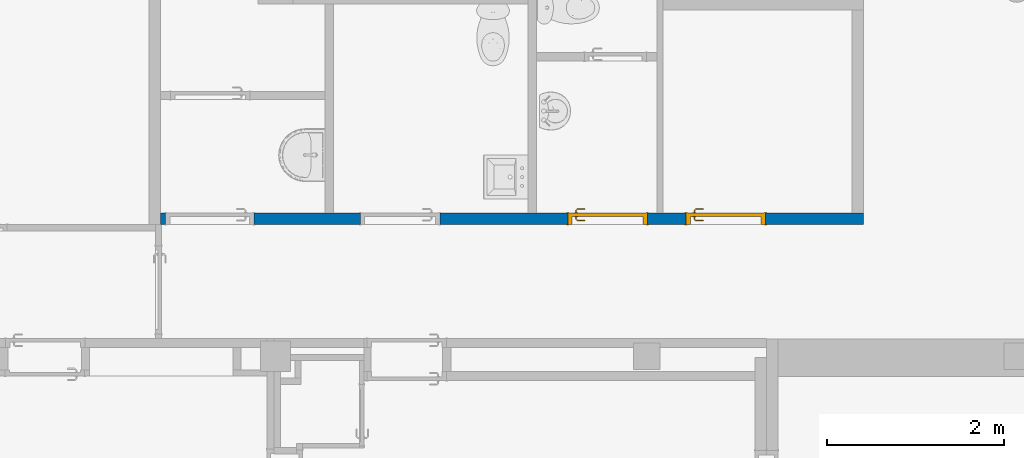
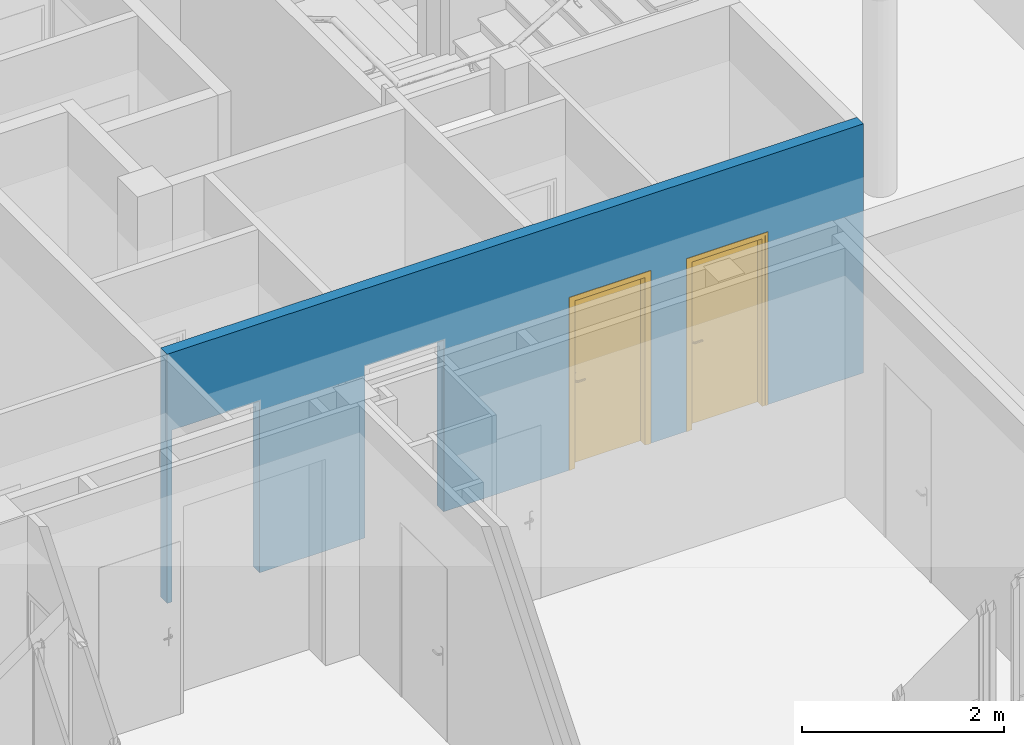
# One storey, part 63 of 97: 2 doors, 1 wall, 4 openings.
"""IFC4 building model written with IfcOpenShell, lengths in metres."""

from ifc_helpers import new_model, entity, si_unit, converted_unit, derived_unit, direction, frame, origin, place, context, subcontext, project, spatial, indexed_curve, outline, extrude, polygons, source, transform, mapped, material, material_list, layer, layer_set, constituent, constituent_set, type_object, type_shapes, element, fill, save


model = new_model("IFC4")

# Units and contexts
model_context = context("Model", 3, precision=1e-05, world=origin(), true_north=direction((6.12303176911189e-17, 1.0)))
body_context = subcontext(model_context, "Body", "Model", "MODEL_VIEW")
ifc_project = project(units=[si_unit("LENGTHUNIT", "METRE"), si_unit("AREAUNIT", "SQUARE_METRE"), si_unit("VOLUMEUNIT", "CUBIC_METRE"), converted_unit("PLANEANGLEUNIT", "DEGREE", entity("IfcRatioMeasure", 0.0174532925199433), si_unit("PLANEANGLEUNIT", "RADIAN"), dimensions=[0, 0, 0, 0, 0, 0, 0]), si_unit("MASSUNIT", "GRAM", prefix="KILO"), derived_unit("MASSDENSITYUNIT", [(si_unit("MASSUNIT", "GRAM", prefix="KILO"), 1), (si_unit("LENGTHUNIT", "METRE"), -3)]), derived_unit("MOMENTOFINERTIAUNIT", [(si_unit("LENGTHUNIT", "METRE"), 4)]), si_unit("TIMEUNIT", "SECOND"), si_unit("FREQUENCYUNIT", "HERTZ"), si_unit("THERMODYNAMICTEMPERATUREUNIT", "DEGREE_CELSIUS"), derived_unit("THERMALTRANSMITTANCEUNIT", [(si_unit("MASSUNIT", "GRAM", prefix="KILO"), 1), (si_unit("THERMODYNAMICTEMPERATUREUNIT", "KELVIN"), -1), (si_unit("TIMEUNIT", "SECOND"), -3)]), derived_unit("VOLUMETRICFLOWRATEUNIT", [(si_unit("LENGTHUNIT", "METRE"), 3), (si_unit("TIMEUNIT", "SECOND"), -1)]), si_unit("ELECTRICCURRENTUNIT", "AMPERE"), si_unit("ELECTRICVOLTAGEUNIT", "VOLT"), si_unit("POWERUNIT", "WATT"), si_unit("FORCEUNIT", "NEWTON", prefix="KILO"), si_unit("ILLUMINANCEUNIT", "LUX"), si_unit("LUMINOUSFLUXUNIT", "LUMEN"), si_unit("LUMINOUSINTENSITYUNIT", "CANDELA"), derived_unit("USERDEFINED", [(si_unit("MASSUNIT", "GRAM", prefix="KILO"), -1), (si_unit("LENGTHUNIT", "METRE"), -2), (si_unit("TIMEUNIT", "SECOND"), 3), (si_unit("LUMINOUSFLUXUNIT", "LUMEN"), 1)]), derived_unit("LINEARVELOCITYUNIT", [(si_unit("LENGTHUNIT", "METRE"), 1), (si_unit("TIMEUNIT", "SECOND"), -1)]), si_unit("PRESSUREUNIT", "PASCAL"), derived_unit("USERDEFINED", [(si_unit("LENGTHUNIT", "METRE"), -2), (si_unit("MASSUNIT", "GRAM", prefix="KILO"), 1), (si_unit("TIMEUNIT", "SECOND"), -2)]), derived_unit("LINEARFORCEUNIT", [(si_unit("MASSUNIT", "GRAM", prefix="KILO"), 1), (si_unit("LENGTHUNIT", "METRE"), 1), (si_unit("TIMEUNIT", "SECOND"), -2), (si_unit("LENGTHUNIT", "METRE"), -1)]), derived_unit("PLANARFORCEUNIT", [(si_unit("MASSUNIT", "GRAM", prefix="KILO"), 1), (si_unit("LENGTHUNIT", "METRE"), 1), (si_unit("TIMEUNIT", "SECOND"), -2), (si_unit("LENGTHUNIT", "METRE"), -2)])], contexts=[model_context])

# Site, building, storey
site_placement = place(None, origin())
site = spatial("IfcSite", under=ifc_project, at=site_placement, Name="Default", CompositionType="ELEMENT")
building_placement = place(site_placement, origin())
building = spatial("IfcBuilding", under=site, at=building_placement, Name="HOTEL CONSULAIRE BOULOGNE SUR MER", CompositionType="ELEMENT")
storey_placement = place(building_placement, frame((0.0, 0.0, 3.62152697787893)))
storey = spatial("IfcBuildingStorey", under=building, at=storey_placement, Name="Niveau 1", CompositionType="ELEMENT", Elevation=3.62152697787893)

# Wall, openings, doors
ifc_material_1 = material(Name="Mur par défaut", Category="Divers")
ifc_layer = layer(ifc_material_1, 0.13, Name="Mur par défaut", Category="Divers")
ifc_layer_set = layer_set([ifc_layer], Name="Mur de base:Générique - Int. 130 mm")
wall_type = type_object("IfcWallType", Name="Mur de base:Générique - Int. 130 mm", PredefinedType="NOTDEFINED", material=ifc_layer_set)
wall_placement = place(storey_placement, frame((5.42705530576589, -22.4600276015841, 0.0), z_axis=(0.0, 0.0, 1.0), x_axis=(-1.0, 0.0, 0.0)))
wall = element("IfcWall", 1, at=wall_placement, inside=storey, type_object=wall_type, material=ifc_layer_set, Name="Mur de base:Générique - Int. 130 mm", ObjectType="Mur de base:Générique - Int. 130 mm", PredefinedType="NOTDEFINED", context=body_context, shape_type="Tessellation", body=[
    polygons([(7.95758399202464, -0.0650000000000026, 0.0), (7.90058399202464, -0.0649999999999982, 0.0), (7.90058399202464, 0.0649999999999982, 0.0), (7.94618813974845, 0.0649999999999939, 0.0), (7.95758399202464, 0.0649999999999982, 0.0), (6.90058399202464, -0.0650000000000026, 0.0), (6.09803531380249, -0.0650000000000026, 0.0), (5.99803531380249, -0.0650000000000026, 0.0), (5.69603531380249, -0.0650000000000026, 0.0), (5.69603531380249, 0.0649999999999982, 0.0), (6.90058399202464, 0.0649999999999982, 0.0), (4.79603531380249, -0.0650000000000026, 0.0), (3.79958399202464, -0.0650000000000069, 0.0), (3.69958399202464, -0.0650000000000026, 0.0), (3.34724170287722, -0.0649999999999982, 0.0), (3.34724170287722, 0.0649999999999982, 0.0), (4.79603531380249, 0.0650000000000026, 0.0), (2.44724170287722, -0.0650000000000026, 0.0), (2.33924170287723, -0.0650000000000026, 0.0), (2.26924170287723, -0.0650000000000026, 0.0), (2.00824170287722, -0.0649999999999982, 0.0), (2.00824170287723, 0.0649999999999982, 0.0), (2.44724170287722, 0.0649999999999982, 0.0), (7.95758399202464, -0.0649999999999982, 3.01021454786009), (6.09803531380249, -0.0650000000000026, 3.01021454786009), (5.99803531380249, -0.0650000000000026, 3.01021454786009), (3.79958399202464, -0.0650000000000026, 3.01021454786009), (3.69958399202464, -0.0649999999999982, 3.01021454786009), (2.33924170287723, -0.0650000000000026, 3.01021454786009), (2.26924170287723, -0.0649999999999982, 3.01021454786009), (0.130000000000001, -0.0650000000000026, 3.01021454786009), (-2.38412309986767e-16, -0.0650000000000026, 3.01021454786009), (-2.38412309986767e-16, -0.0650000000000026, 0.0), (0.129999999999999, -0.0650000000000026, 0.0), (1.10824170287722, -0.0650000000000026, 0.0), (1.10824170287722, -0.0650000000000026, 2.075), (2.00824170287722, -0.0649999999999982, 2.075), (2.44724170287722, -0.0650000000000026, 2.075), (3.34724170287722, -0.0649999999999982, 2.075), (4.79603531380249, -0.0649999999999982, 2.075), (5.69603531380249, -0.0650000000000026, 2.075), (6.90058399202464, -0.0650000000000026, 2.075), (7.90058399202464, -0.0649999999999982, 2.075), (-6.35807461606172e-16, 0.0649999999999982, 3.01021454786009), (7.94618813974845, 0.0650000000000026, 3.01021454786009), (7.95758399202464, 0.0650000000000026, 3.01021454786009), (7.90058399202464, 0.0650000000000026, 2.075), (6.90058399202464, 0.0649999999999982, 2.075), (5.69603531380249, 0.0649999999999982, 2.075), (4.79603531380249, 0.0650000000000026, 2.075), (3.34724170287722, 0.0650000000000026, 2.075), (2.44724170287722, 0.0649999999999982, 2.075), (2.00824170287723, 0.0650000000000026, 2.075), (1.10824170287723, 0.0649999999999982, 2.075), (1.10824170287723, 0.0649999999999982, 0.0), (-6.35807461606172e-16, 0.0649999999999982, 0.0)], [[[1, 2, 3, 4, 5]], [[7, 8, 9, 10, 11, 6]], [[13, 14, 15, 16, 17, 12]], [[20, 21, 22, 23, 18, 19]], [[39, 38, 52, 51]], [[37, 36, 54, 53]], [[50, 49, 41, 40]], [[48, 47, 43, 42]], [[34, 33, 56, 55, 35]], [[34, 35, 36, 37, 21, 20, 19, 18, 38, 39, 15, 14, 13, 12, 40, 41, 9, 8, 7, 6, 42, 43, 2, 1, 24, 25, 26, 27, 28, 29, 30, 31, 32, 33]], [[47, 48, 11, 10, 49, 50, 17, 16, 51, 52, 23, 22, 53, 54, 55, 56, 44, 45, 46, 5, 4, 3]], [[25, 24, 46, 45, 44, 32, 31, 30, 29, 28, 27, 26]], [[44, 56, 33, 32]], [[15, 39, 51, 16]], [[21, 37, 53, 22]], [[49, 10, 9, 41]], [[47, 3, 2, 43]], [[1, 5, 46, 24]], [[38, 18, 23, 52]], [[36, 35, 55, 54]], [[17, 50, 40, 12]], [[11, 48, 42, 6]]], closed=True),
])
opening_1_placement = place(wall_placement, frame((3.34724170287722, 0.0649999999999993, 0.0)))
opening_1 = element("IfcOpeningElement", 2, at=opening_1_placement, cuts=wall, Name="Int. Simple:PP (0.83m x 2.04m):1", ObjectType="Opening", PredefinedType="OPENING", context=body_context, shape_type="SweptSolid", body=[
    extrude(outline(indexed_curve([(0.0, 0.9), (0.0, 0.0), (2.075, 0.0), (2.075, 0.9), (0.0, 0.9)], self_intersect=False)), frame((0.0, 0.0, 0.0), z_axis=(0.0, -1.0, 0.0), x_axis=(0.0, 0.0, 1.0)), (0.0, 0.0, 1.0), 0.13),
])
opening_2_placement = place(wall_placement, frame((2.00824170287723, 0.0649999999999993, 0.0)))
opening_2 = element("IfcOpeningElement", 3, at=opening_2_placement, cuts=wall, Name="Int. Simple:PP (0.83m x 2.04m):1", ObjectType="Opening", PredefinedType="OPENING", context=body_context, shape_type="SweptSolid", body=[
    extrude(outline(indexed_curve([(0.0, 0.9), (0.0, 0.0), (2.075, 0.0), (2.075, 0.9), (0.0, 0.9)], self_intersect=False)), frame((0.0, 0.0, 0.0), z_axis=(0.0, -1.0, 0.0), x_axis=(0.0, 0.0, 1.0)), (0.0, 0.0, 1.0), 0.13),
])
opening_3_placement = place(wall_placement, frame((5.69603531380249, 0.0650000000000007, 0.0)))
element("IfcOpeningElement", 4, at=opening_3_placement, cuts=wall, Name="Int. Simple:PP (0.83m x 2.04m):1", ObjectType="Opening", PredefinedType="OPENING", context=body_context, shape_type="SweptSolid", body=[
    extrude(outline(indexed_curve([(0.0, 0.0), (2.075, 0.0), (2.075, 0.9), (0.0, 0.9), (0.0, 0.0)], self_intersect=False)), frame((0.0, 0.0, 0.0), z_axis=(0.0, -1.0, 0.0), x_axis=(0.0, 0.0, 1.0)), (0.0, 0.0, 1.0), 0.13),
])
opening_4_placement = place(wall_placement, frame((7.90058399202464, 0.0650000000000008, 0.0)))
element("IfcOpeningElement", 5, at=opening_4_placement, cuts=wall, Name="Int. Simple:PP0.93x2.04:1", ObjectType="Opening", PredefinedType="OPENING", context=body_context, shape_type="SweptSolid", body=[
    extrude(outline(indexed_curve([(0.0, 0.0), (2.075, 0.0), (2.075, 1.0), (0.0, 1.0), (0.0, 0.0)], self_intersect=False)), frame((0.0, 0.0, 0.0), z_axis=(0.0, -1.0, 0.0), x_axis=(0.0, 0.0, 1.0)), (0.0, 0.0, 1.0), 0.13),
])
ifc_material_2 = material(Name="Finition Peinture - Blanc satiné", Category="Peinture")
ifc_constituent_1 = constituent(ifc_material_2, Name="Finition Peinture - Blanc satiné", Category="Matériaux")
ifc_material_3 = material(Name="Bois - Panneau de porte", Category="Bois")
ifc_constituent_2 = constituent(ifc_material_3, Name="Bois - Panneau de porte", Category="Matériaux")
ifc_material_4 = material(Name="Bois - Cadre de porte", Category="Bois")
ifc_constituent_3 = constituent(ifc_material_4, Name="Bois - Cadre de porte", Category="Matériaux")
ifc_constituent_set_1 = constituent_set(constituents=[ifc_constituent_1, ifc_constituent_2, ifc_constituent_3], Name="MaterialConstituentSet")
ifc_material_list = material_list([ifc_material_3, ifc_material_2, ifc_material_4, ifc_material_4])
door_type = type_object("IfcDoorType", Name="Int. Simple:PP (0.83m x 2.04m)", OperationType="NOTDEFINED", PredefinedType="DOOR", material=ifc_material_list)
shared_shape = source(origin(), body_context, "Body", "Tessellation", [
    polygons([(0.895000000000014, -0.00500000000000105, 0.870000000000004), (0.895000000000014, -0.00500000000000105, 1.08), (0.885352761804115, -0.00500000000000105, 1.08399601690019), (0.875000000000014, -0.00500000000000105, 1.08535898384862), (0.864647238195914, -0.00500000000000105, 1.08399601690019), (0.855000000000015, -0.00500000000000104, 1.08), (0.855000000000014, -0.00500000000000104, 0.870000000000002), (0.864647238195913, -0.00500000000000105, 0.866003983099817), (0.875000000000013, -0.00500000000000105, 0.86464101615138), (0.885352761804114, -0.00500000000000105, 0.866003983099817), (0.895000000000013, -1.05748743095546e-15, 0.870000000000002), (0.885352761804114, -1.05748743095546e-15, 0.866003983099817), (0.875000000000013, -1.04902753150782e-15, 0.86464101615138), (0.864647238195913, -1.04902753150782e-15, 0.866003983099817), (0.855000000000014, -1.04056763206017e-15, 0.870000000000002), (0.855000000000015, -1.04056763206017e-15, 1.08), (0.864647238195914, -1.04902753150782e-15, 1.08399601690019), (0.875000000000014, -1.04902753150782e-15, 1.08535898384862), (0.885352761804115, -1.05748743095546e-15, 1.08399601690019), (0.895000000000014, -1.05748743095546e-15, 1.08)], [[[1, 2, 3, 4, 5, 6, 7, 8, 9, 10]], [[20, 11, 12, 13, 14, 15, 16, 17, 18, 19]], [[10, 12, 11, 1]], [[9, 13, 12, 10]], [[8, 14, 13, 9]], [[8, 7, 15, 14]], [[15, 7, 6, 16]], [[5, 17, 16, 6]], [[4, 18, 17, 5]], [[3, 19, 18, 4]], [[3, 2, 20, 19]], [[11, 20, 2, 1]]], closed=True),
    polygons([(0.855000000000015, 0.0399999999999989, 1.08), (0.855000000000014, 0.0399999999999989, 0.870000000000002), (0.864647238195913, 0.0399999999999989, 0.866003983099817), (0.875000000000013, 0.0399999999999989, 0.86464101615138), (0.885352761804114, 0.0399999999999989, 0.866003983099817), (0.895000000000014, 0.0399999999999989, 0.870000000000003), (0.895000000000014, 0.0399999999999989, 1.08), (0.885352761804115, 0.0399999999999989, 1.08399601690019), (0.875000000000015, 0.0399999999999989, 1.08535898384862), (0.864647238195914, 0.0399999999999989, 1.08399601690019), (0.855000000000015, 0.0449999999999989, 1.08), (0.864647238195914, 0.0449999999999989, 1.08399601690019), (0.875000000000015, 0.0449999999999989, 1.08535898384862), (0.885352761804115, 0.0449999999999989, 1.08399601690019), (0.895000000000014, 0.0449999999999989, 1.08), (0.895000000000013, 0.0449999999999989, 0.870000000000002), (0.885352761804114, 0.0449999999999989, 0.866003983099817), (0.875000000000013, 0.0449999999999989, 0.86464101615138), (0.864647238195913, 0.0449999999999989, 0.866003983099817), (0.855000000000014, 0.0449999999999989, 0.870000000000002)], [[[6, 7, 8, 9, 10, 1, 2, 3, 4, 5]], [[13, 14, 15, 16, 17, 18, 19, 20, 11, 12]], [[10, 12, 11, 1]], [[9, 13, 12, 10]], [[8, 14, 13, 9]], [[8, 7, 15, 14]], [[16, 15, 7, 6]], [[5, 17, 16, 6]], [[4, 18, 17, 5]], [[3, 19, 18, 4]], [[3, 2, 20, 19]], [[20, 2, 1, 11]]], closed=True),
    polygons([(0.881000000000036, -0.00500000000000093, 1.00699999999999), (0.881000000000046, -0.00500000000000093, 0.992999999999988), (0.877025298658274, -0.00500000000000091, 0.99221955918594), (0.872974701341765, -0.00500000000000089, 0.992219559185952), (0.868999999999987, -0.00500000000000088, 0.993000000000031), (0.868999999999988, -0.00500000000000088, 1.007), (0.872974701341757, -0.00500000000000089, 1.00778044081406), (0.877025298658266, -0.00500000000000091, 1.00778044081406), (0.868999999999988, -0.0276803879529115, 1.007), (0.872974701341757, -0.0293267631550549, 1.00778044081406), (0.877025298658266, -0.0310045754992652, 1.00778044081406), (0.881000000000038, -0.0326509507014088, 1.007), (0.868999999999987, -0.0276803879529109, 0.993000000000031), (0.881000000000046, -0.0326509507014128, 0.992999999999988), (0.877025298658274, -0.0310045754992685, 0.99221955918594), (0.872974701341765, -0.0293267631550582, 0.992219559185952), (0.85765222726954, -0.0390281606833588, 1.007), (0.859298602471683, -0.0430028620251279, 1.00778044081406), (0.860976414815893, -0.0470534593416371, 1.00778044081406), (0.862622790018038, -0.0510281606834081, 1.007), (0.857652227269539, -0.0390281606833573, 0.993000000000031), (0.862622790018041, -0.0510281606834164, 0.992999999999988), (0.860976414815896, -0.0470534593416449, 0.99221955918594), (0.859298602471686, -0.0430028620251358, 0.992219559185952), (0.774981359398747, -0.0510281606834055, 1.007), (0.774981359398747, -0.0470534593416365, 1.00778044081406), (0.774981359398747, -0.0430028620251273, 1.00778044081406), (0.774981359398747, -0.0390281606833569, 1.00699999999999), (0.774981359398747, -0.0390281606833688, 0.993000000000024), (0.774981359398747, -0.0430028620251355, 0.992219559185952), (0.774981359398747, -0.0470534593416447, 0.99221955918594), (0.774981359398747, -0.0510281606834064, 0.992999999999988), (0.822692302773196, -0.051028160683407, 1.007), (0.81713998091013, -0.045028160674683, 1.0078786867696), (0.816316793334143, -0.039028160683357, 1.007), (0.822692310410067, -0.0510281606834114, 0.992999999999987), (0.817139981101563, -0.0450281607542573, 0.992121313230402), (0.816316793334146, -0.0390281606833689, 0.993000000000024)], [[[7, 8, 1, 2, 3, 4, 5, 6]], [[17, 21, 38, 29, 28, 35]], [[1, 8, 11, 12]], [[8, 7, 10, 18, 19, 11]], [[7, 6, 9, 10]], [[13, 9, 6, 5]], [[25, 26, 27, 28, 29, 30, 31, 32]], [[4, 16, 13, 5]], [[4, 3, 15, 23, 24, 16]], [[2, 14, 15, 3]], [[12, 14, 2, 1]], [[12, 11, 19, 20]], [[10, 9, 17, 18]], [[21, 17, 9, 13]], [[13, 16, 24, 21]], [[15, 14, 22, 23]], [[20, 22, 14, 12]], [[34, 26, 33]], [[33, 26, 25]], [[33, 20, 19]], [[18, 35, 34]], [[35, 18, 17]], [[28, 27, 35]], [[34, 27, 26]], [[34, 35, 27]], [[34, 33, 19]], [[18, 34, 19]], [[37, 30, 38]], [[31, 37, 36]], [[24, 38, 21]], [[30, 29, 38]], [[31, 36, 32]], [[36, 23, 22]], [[37, 23, 36]], [[37, 24, 23]], [[37, 38, 24]], [[30, 37, 31]], [[22, 20, 33, 25, 32, 36]]], closed=True),
    polygons([(0.868999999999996, 0.0449999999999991, 0.993000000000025), (0.872974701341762, 0.0449999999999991, 0.992219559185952), (0.877025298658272, 0.0449999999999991, 0.99221955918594), (0.881000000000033, 0.0449999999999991, 0.992999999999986), (0.881000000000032, 0.0449999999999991, 1.007), (0.877025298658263, 0.0449999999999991, 1.00778044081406), (0.872974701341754, 0.0449999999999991, 1.00778044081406), (0.868999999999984, 0.0449999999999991, 1.007), (0.868999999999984, 0.067485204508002, 1.007), (0.868999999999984, 0.0674852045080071, 0.993000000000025), (0.881000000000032, 0.0724557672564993, 1.007), (0.877025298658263, 0.070809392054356, 1.00778044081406), (0.872974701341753, 0.0691315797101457, 1.00778044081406), (0.881000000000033, 0.0724557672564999, 0.992999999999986), (0.872974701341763, 0.0691315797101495, 0.992219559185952), (0.877025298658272, 0.0708093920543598, 0.99221955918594), (0.857514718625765, 0.0789704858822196, 1.007), (0.857514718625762, 0.0789704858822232, 0.993000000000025), (0.862485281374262, 0.0909704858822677, 1.007), (0.860838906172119, 0.0869957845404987, 1.00778044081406), (0.859161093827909, 0.0829451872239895, 1.00778044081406), (0.862485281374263, 0.0909704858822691, 0.992999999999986), (0.859161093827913, 0.0829451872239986, 0.992219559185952), (0.860838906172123, 0.0869957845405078, 0.99221955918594), (0.77495421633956, 0.0789704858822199, 0.993000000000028), (0.77495421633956, 0.0789704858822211, 1.007), (0.77495421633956, 0.0829451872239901, 1.00778044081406), (0.77495421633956, 0.0869957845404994, 1.00778044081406), (0.77495421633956, 0.0909704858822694, 1.007), (0.77495421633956, 0.0909704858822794, 0.992999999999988), (0.77495421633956, 0.086995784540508, 0.99221955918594), (0.77495421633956, 0.0829451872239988, 0.992219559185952), (0.822554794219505, 0.0909704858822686, 1.007), (0.817057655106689, 0.0849704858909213, 1.0078786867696), (0.816234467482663, 0.0789704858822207, 1.007), (0.822554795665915, 0.0909704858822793, 0.992999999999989), (0.817057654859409, 0.0849704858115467, 0.992121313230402), (0.816234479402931, 0.0789704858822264, 0.993000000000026)], [[[2, 3, 4, 5, 6, 7, 8, 1]], [[18, 17, 35, 26, 25, 38]], [[9, 10, 1, 8]], [[27, 28, 29, 30, 31, 32, 25, 26]], [[7, 13, 9, 8]], [[7, 6, 12, 20, 21, 13]], [[5, 11, 12, 6]], [[11, 5, 4, 14]], [[4, 3, 16, 14]], [[3, 2, 15, 23, 24, 16]], [[2, 1, 10, 15]], [[17, 18, 10, 9]], [[9, 13, 21, 17]], [[11, 19, 20, 12]], [[22, 19, 11, 14]], [[14, 16, 24, 22]], [[15, 10, 18, 23]], [[34, 27, 35]], [[28, 34, 33]], [[21, 35, 17]], [[27, 26, 35]], [[28, 33, 29]], [[33, 20, 19]], [[34, 20, 33]], [[34, 21, 20]], [[34, 35, 21]], [[27, 34, 28]], [[19, 22, 36, 30, 29, 33]], [[37, 31, 36]], [[36, 31, 30]], [[36, 22, 24]], [[23, 38, 37]], [[38, 23, 18]], [[25, 32, 38]], [[37, 32, 31]], [[37, 38, 32]], [[37, 36, 24]], [[23, 37, 24]]], closed=True),
    polygons([(0.935000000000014, 0.04, 2.04), (0.935000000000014, 0.04, 0.0), (0.105000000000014, 0.04, 0.0), (0.105000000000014, 0.04, 2.04), (0.935000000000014, 4.22994972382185e-17, 2.04), (0.105000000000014, 4.22994972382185e-17, 2.04), (0.105000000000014, 4.22994972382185e-17, 0.0), (0.935000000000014, 4.22994972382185e-17, 0.0)], [[[3, 4, 1, 2]], [[5, 6, 7, 8]], [[5, 1, 4, 6]], [[6, 4, 3, 7]], [[8, 7, 3, 2]], [[8, 2, 1, 5]]], closed=True),
    polygons([(0.970000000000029, 1.69197988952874e-17, 0.0), (0.935000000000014, 1.69197988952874e-17, 0.0), (0.935000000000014, 0.0400000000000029, 0.0), (0.920000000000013, 0.0400000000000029, 0.0), (0.920000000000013, 0.130000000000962, 0.0), (0.970000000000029, 0.130000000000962, 0.0), (0.970000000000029, 0.130000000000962, 2.07500000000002), (0.970000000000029, 1.69197988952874e-17, 2.07500000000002), (0.920000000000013, 0.130000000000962, 2.025), (0.120000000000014, 0.130000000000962, 2.025), (0.120000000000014, 0.130000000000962, 6.02669015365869e-24), (0.0699999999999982, 0.130000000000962, 9.23443718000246e-25), (0.0699999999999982, 0.130000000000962, 2.07500000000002), (0.920000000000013, 0.0400000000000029, 2.025), (0.935000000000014, 0.0400000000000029, 2.04), (0.105000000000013, 0.0400000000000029, 2.04), (0.105000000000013, 0.0400000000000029, 1.51399294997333e-24), (0.120000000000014, 0.0400000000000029, 1.99209609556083e-25), (0.120000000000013, 0.0400000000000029, 2.025), (0.935000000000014, 1.69197988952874e-17, 2.04), (0.0699999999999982, 1.69197988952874e-17, 2.07500000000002), (0.0699999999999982, 1.69197988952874e-17, 1.81925185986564e-24), (0.105000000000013, 1.69197988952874e-17, 3.40121094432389e-24), (0.105000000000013, 1.69197988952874e-17, 2.04)], [[[5, 6, 1, 2, 3, 4]], [[17, 23, 22, 12, 11, 18]], [[19, 10, 9, 14]], [[24, 16, 15, 20]], [[7, 8, 1, 6]], [[11, 10, 19, 18]], [[23, 17, 16, 24]], [[9, 10, 11, 12, 13, 7, 6, 5]], [[9, 5, 4, 14]], [[20, 15, 3, 2]], [[12, 22, 21, 13]], [[19, 14, 4, 3, 15, 16, 17, 18]], [[24, 20, 2, 1, 8, 21, 22, 23]], [[13, 21, 8, 7]]], closed=True),
    polygons([(0.955000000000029, 0.130000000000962, 1.35358391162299e-16), (0.955000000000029, 0.135000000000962, 1.35358391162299e-16), (0.985000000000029, 0.135000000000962, 1.35358391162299e-16), (0.985000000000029, 0.130000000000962, 1.35358391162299e-16), (0.985000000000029, 0.130000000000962, 2.09000000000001), (0.0550000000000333, 0.130000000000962, 2.09000000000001), (0.0550000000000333, 0.130000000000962, -5.44393448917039e-24), (0.0850000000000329, 0.130000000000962, 5.09144898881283e-24), (0.0850000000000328, 0.130000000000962, 2.06000000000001), (0.955000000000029, 0.130000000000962, 2.06000000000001), (0.985000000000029, 0.135000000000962, 2.09000000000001), (0.955000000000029, 0.135000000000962, 2.06000000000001), (0.0850000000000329, 0.135000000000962, 2.06000000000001), (0.0850000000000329, 0.135000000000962, -1.89153776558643e-24), (0.055000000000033, 0.135000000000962, 5.03766794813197e-24), (0.0550000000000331, 0.135000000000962, 2.09000000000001)], [[[2, 3, 4, 1]], [[7, 15, 14, 8]], [[13, 12, 10, 9]], [[9, 10, 1, 4, 5, 6, 7, 8]], [[11, 5, 4, 3]], [[8, 14, 13, 9]], [[12, 13, 14, 15, 16, 11, 3, 2]], [[10, 12, 2, 1]], [[15, 7, 6, 16]], [[16, 6, 5, 11]]], closed=True),
    polygons([(0.955000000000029, -0.005, 1.35358391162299e-16), (0.955000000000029, 1.69197988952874e-17, 1.35358391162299e-16), (0.985000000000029, 1.69197988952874e-17, 1.35358391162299e-16), (0.985000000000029, -0.005, 1.35358391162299e-16), (0.0850000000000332, -0.005, -1.35358391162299e-16), (0.0550000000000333, -0.005, -1.35358391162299e-16), (0.055000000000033, 1.69197988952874e-17, -1.35358391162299e-16), (0.0850000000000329, 1.69197988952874e-17, -1.35358391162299e-16), (0.985000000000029, -0.005, 2.09000000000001), (0.0550000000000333, -0.005, 2.09000000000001), (0.0850000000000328, -0.005, 2.06000000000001), (0.955000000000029, -0.005, 2.06000000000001), (0.985000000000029, 1.69197988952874e-17, 2.09000000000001), (0.955000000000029, 1.69197988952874e-17, 2.06000000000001), (0.0850000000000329, 1.69197988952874e-17, 2.06000000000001), (0.0550000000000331, 1.69197988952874e-17, 2.09000000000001)], [[[2, 3, 4, 1]], [[6, 7, 8, 5]], [[15, 14, 12, 11]], [[11, 12, 1, 4, 9, 10, 6, 5]], [[13, 9, 4, 3]], [[5, 8, 15, 11]], [[14, 15, 8, 7, 16, 13, 3, 2]], [[12, 14, 2, 1]], [[7, 6, 10, 16]], [[16, 10, 9, 13]]], closed=True),
])
type_shapes(door_type, [shared_shape])
door_1_placement = place(opening_1_placement, frame((-0.970000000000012, -0.130000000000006, 0.0)))
door_1 = element("IfcDoor", 6, at=door_1_placement, inside=storey, type_object=door_type, material=ifc_constituent_set_1, Name="Int. Simple:PP (0.83m x 2.04m)", ObjectType="Int. Simple:PP (0.83m x 2.04m)", OperationType="NOTDEFINED", OverallHeight=2.075, OverallWidth=0.9, PredefinedType="DOOR", context=body_context, shape_type="MappedRepresentation", body=[
    mapped(shared_shape, transform((0.0, 0.0, 0.0), scale=1.0)),
])
fill(opening_1, door_1)
ifc_constituent_4 = constituent(ifc_material_2, Name="Finition Peinture - Blanc satiné", Category="Matériaux")
ifc_constituent_5 = constituent(ifc_material_3, Name="Bois - Panneau de porte", Category="Matériaux")
ifc_constituent_6 = constituent(ifc_material_4, Name="Bois - Cadre de porte", Category="Matériaux")
ifc_constituent_set_2 = constituent_set(constituents=[ifc_constituent_4, ifc_constituent_5, ifc_constituent_6], Name="MaterialConstituentSet")
door_2_placement = place(opening_2_placement, frame((-0.970000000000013, -0.129999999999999, 0.0)))
door_2 = element("IfcDoor", 7, at=door_2_placement, inside=storey, type_object=door_type, material=ifc_constituent_set_2, Name="Int. Simple:PP (0.83m x 2.04m)", ObjectType="Int. Simple:PP (0.83m x 2.04m)", OperationType="NOTDEFINED", OverallHeight=2.075, OverallWidth=0.9, PredefinedType="DOOR", context=body_context, shape_type="MappedRepresentation", body=[
    mapped(shared_shape, transform((0.0, 0.0, 0.0), scale=1.0)),
])
fill(opening_2, door_2)

save(model, "model.ifc")
